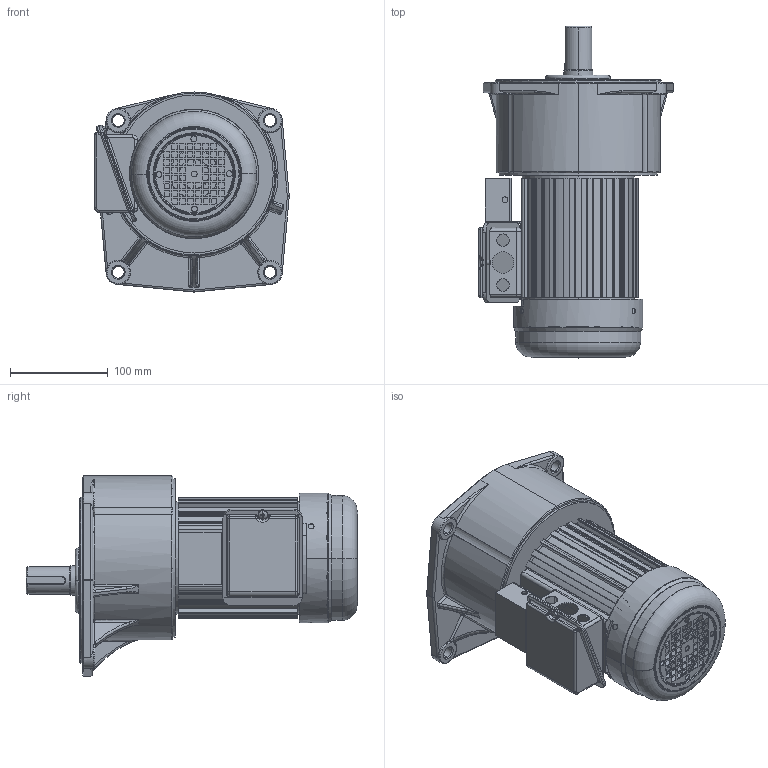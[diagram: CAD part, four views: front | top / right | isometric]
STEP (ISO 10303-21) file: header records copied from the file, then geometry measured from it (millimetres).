
FILE_DESCRIPTION (( 'STEP AP203' ), '1' );
FILE_NAME ('单相200W配3#立式带刹车.STEP', '2020-04-23T03:46:31', ( 'china' ), ( 'china' ), 'SwSTEP 2.0', 'SolidWorks 2019', '' );
FILE_SCHEMA (( 'CONFIG_CONTROL_DESIGN' ));
Length unit declared in the file: millimetre
Products named in the file (5): 等眈200W3#蕾宒; 100W棠憤迖殤; 100W价陬瑞欶; 淕霜ん; 单相200W配3#立式带刹车
Assembly tree (4 placements, depth 2):
  单相200W配3#立式带刹车
    等眈200W3#蕾宒
    100W棠憤迖殤
    100W价陬瑞欶
    淕霜ん
Bounding box: 199.38 x 340.14 x 204.98 mm (x, y, z)
Volume: 2930623.7 mm3; surface area: 438868.9 mm2
Topology: 8 solids, 8 shells, 1121 faces, 3048 edges, 1953 vertices
Faces by surface type: plane 439, cylinder 425, bspline 166, torus 56, cone 29, sphere 6
Entity records: 46367 total; most frequent: CARTESIAN_POINT 18062, ORIENTED_EDGE 6058, DIRECTION 5538, EDGE_CURVE 3029, AXIS2_PLACEMENT_3D 1994, VERTEX_POINT 1953, VECTOR 1550, LINE 1550
